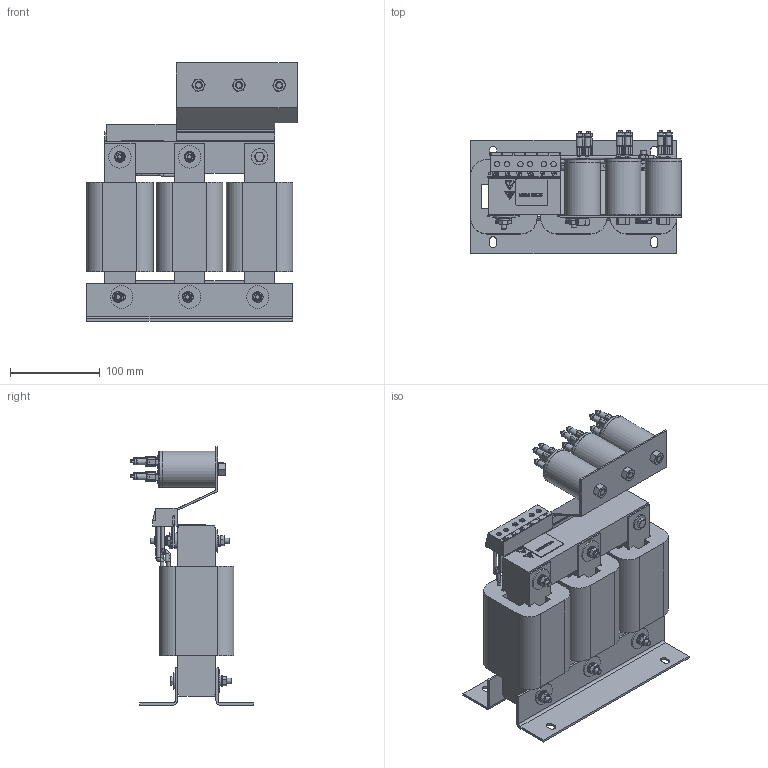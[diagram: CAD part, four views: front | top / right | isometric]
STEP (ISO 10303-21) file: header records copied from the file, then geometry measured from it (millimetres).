
FILE_DESCRIPTION(/* description */ ('raw material description'),/* implementation_level */ '2;1');
FILE_NAME(/* name */ 'C:\Users\Oliver.Volic\Desktop\FN5045HV-13-83.stp',/* time_stamp */ '2020-02-17T09:37:20+01:00',/* author */ ('Oliver.Volic'),/* organization */ ('Schaffner EMV AG'),/* preprocessor_version */ 'ST-DEVELOPER v16.5',/* originating_system */ 'Autodesk Inventor 2017',/* authorisation */ '');
FILE_SCHEMA (('CONFIG_CONTROL_DESIGN'));
Products named in the file (1): FN5045HV-13-83
Bounding box: 235.25 x 137.5 x 288.54 mm (x, y, z)
Volume: 2602047.1 mm3; surface area: 451804.1 mm2
Topology: 29 solids, 32 shells, 2188 faces, 5799 edges, 3761 vertices
Faces by surface type: plane 1354, cylinder 559, bspline 143, cone 113, torus 19
Full cylindrical faces by diameter (mm): 0.8 x12, 2.5 x12, 2.8 x24, 3 x2, 4 x21, 4.8 x12, 5.459 x6, 5.5 x12, 6 x23, 6.4 x19, 6.8 x12, 7.5 x3, 8 x6, 8.2 x5, 8.4 x6, 8.5 x3, 8.7 x6, 9 x6, 11 x4, 12 x6, 12.5 x6, 14.5 x6, 18 x10, 25 x5, 40 x6, 40.5 x3
Entity records: 69030 total; most frequent: CARTESIAN_POINT 14116, ORIENTED_EDGE 10824, DIRECTION 10560, EDGE_CURVE 5390, VERTEX_POINT 3655, AXIS2_PLACEMENT_3D 3597, LINE 3366, VECTOR 3366
